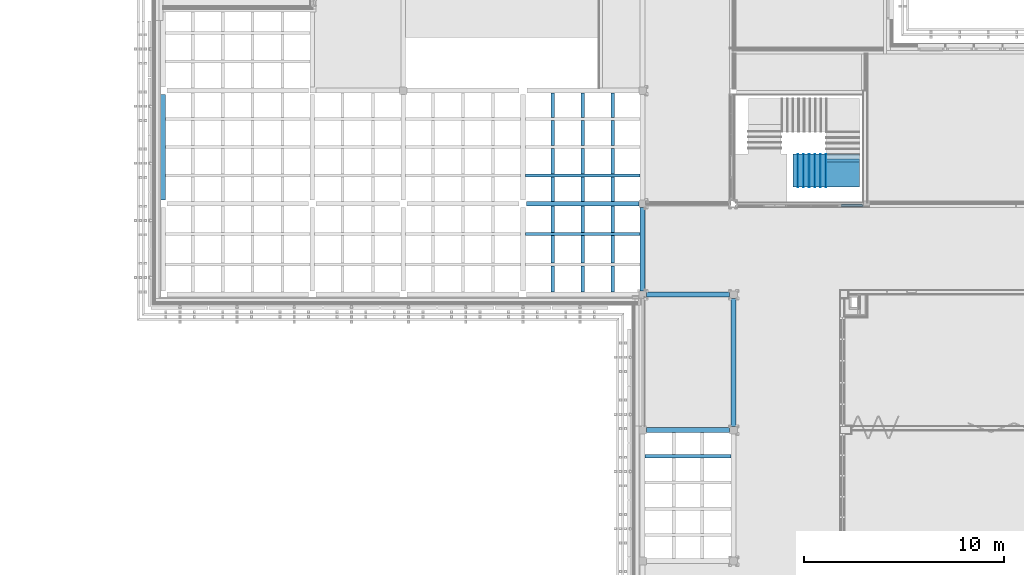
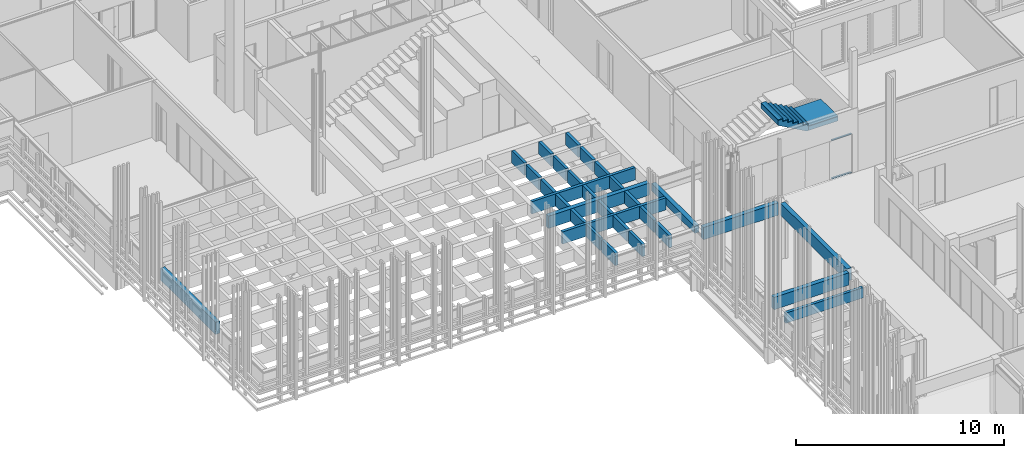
# One storey, part 35 of 139: 17 members, 12 beams, 2 elements without a shape of their own.
"""IFC2X3 building model written with IfcOpenShell, lengths in millimetres."""

from ifc_helpers import new_model, entity, si_unit, converted_unit, derived_unit, money_unit, direction, frame, origin_with_axes, place, context, subcontext, project, spatial, faceted_brep, material, type_object, element, aggregate, save


model = new_model("IFC2X3")

# Units and contexts
model_context = context("Model", 3, precision=0.01, world=origin_with_axes(), true_north=direction((0.0, 1.0)))
body_context = subcontext(model_context, "Body", "Model", "MODEL_VIEW")
ifc_project = project(units=[si_unit("LENGTHUNIT", "METRE", prefix="MILLI"), si_unit("AREAUNIT", "SQUARE_METRE"), si_unit("VOLUMEUNIT", "CUBIC_METRE"), converted_unit("PLANEANGLEUNIT", "DEGREE", entity("IfcPlaneAngleMeasure", 0.0174532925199), si_unit("PLANEANGLEUNIT", "RADIAN"), dimensions=[0, 0, 0, 0, 0, 0, 0]), money_unit("EUR"), converted_unit("TIMEUNIT", "Year", entity("IfcTimeMeasure", 31556926.0), si_unit("TIMEUNIT", "SECOND"), dimensions=[0, 0, 1, 0, 0, 0, 0]), si_unit("MASSUNIT", "GRAM", prefix="KILO"), si_unit("THERMODYNAMICTEMPERATUREUNIT", "DEGREE_CELSIUS"), si_unit("LUMINOUSINTENSITYUNIT", "LUMEN"), si_unit("ENERGYUNIT", "JOULE", prefix="MEGA"), derived_unit("THERMALCONDUCTANCEUNIT", [(si_unit("POWERUNIT", "WATT"), 1), (si_unit("LENGTHUNIT", "METRE"), -1), (si_unit("THERMODYNAMICTEMPERATUREUNIT", "KELVIN"), -1)]), derived_unit("SPECIFICHEATCAPACITYUNIT", [(si_unit("ENERGYUNIT", "JOULE"), 1), (si_unit("MASSUNIT", "GRAM", prefix="KILO"), -1), (si_unit("THERMODYNAMICTEMPERATUREUNIT", "KELVIN"), -1)]), derived_unit("MASSDENSITYUNIT", [(si_unit("MASSUNIT", "GRAM", prefix="KILO"), 1), (si_unit("VOLUMEUNIT", "CUBIC_METRE"), -1)])], contexts=[model_context])

# Site, building, storey
site_placement = place(None, origin_with_axes())
site = spatial("IfcSite", under=ifc_project, at=site_placement, Name="Kolde pst 67a", CompositionType="ELEMENT")
building_placement = place(site_placement, origin_with_axes())
building = spatial("IfcBuilding", under=site, at=building_placement, Name="Riigigümnaasium", CompositionType="ELEMENT")
storey_placement = place(building_placement, frame((0.0, 0.0, 4600.0), z_axis=(0.0, 0.0, 1.0), x_axis=(1.0, 0.0, 0.0)))
storey = spatial("IfcBuildingStorey", under=building, at=storey_placement, Name="2. korrus", CompositionType="ELEMENT", Elevation=4600.0)

# Stair, members
stair_placement = place(storey_placement, frame((55074.9941194, 31162.4614213, 0.0), z_axis=(0.0, 0.0, 1.0), x_axis=(1.0, 0.0, 0.0)))
stair = element("IfcStair", 1, at=stair_placement, inside=storey, Name="TREPP", ShapeType="NOTDEFINED")
ifc_material_1 = material(Name="_KANDETARIND - raudbetoon C25/30 vastavalt EK osale")
member_type_1 = type_object("IfcMemberType", Name="IfcMember", PredefinedType="USERDEFINED")
member_1_placement = place(stair_placement, origin_with_axes())
member_1 = element("IfcMember", 2, at=member_1_placement, type_object=member_type_1, material=ifc_material_1, Name="TM KONSTRUKTSIOON - 014", ObjectType="Stair Structure", context=body_context, shape_type="Brep", body=[
    faceted_brep([(2349.9899171, -135.00000579, 2530.5), (2349.9899171, -135.00000579, 2630.5), (3999.95412159, -135.00000579, 2630.5), (3999.95412159, -135.00000579, 2530.5), (2349.9899171, -295.000014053, 2630.5), (2349.9899171, -1555.0, 2530.5), (2349.9899171, -1555.0, 2780.5), (2349.9899171, -295.000014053, 2780.5), (3999.95412159, -295.000014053, 2630.5), (3999.95412159, -295.000014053, 2780.5), (3999.95411863, -1555.0, 2780.5), (3999.95411863, -1555.0, 2530.5)], [[[0, 1, 2, 3]], [[4, 1, 0, 5, 6, 7]], [[1, 4, 8, 2]], [[2, 8, 9, 10, 11, 3]], [[5, 0, 3, 11]], [[6, 5, 11, 10]], [[7, 6, 10, 9]], [[4, 7, 9, 8]]]),
])
member_2_placement = place(stair_placement, origin_with_axes())
member_2 = element("IfcMember", 3, at=member_2_placement, type_object=member_type_1, material=ifc_material_1, Name="TT KONSTRUKTSIOON - 018", ObjectType="Stair Structure", context=body_context, shape_type="Brep", body=[
    faceted_brep([(2349.98991721, -1555.0, 2530.5), (2349.98991721, 95.0, 2530.5), (2349.98991721, 95.0, 2780.5), (2349.98991721, -1555.0, 2780.5), (2263.21648752, 95.0, 2530.5), (2263.21648752, -1555.0, 2530.5), (856.656583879, 95.0, 3315.41066052), (763.323250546, 95.0, 3367.49399385), (669.989917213, 95.0, 3419.57732718), (669.989917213, 95.0, 3718.0), (917.989917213, 95.0, 3718.0), (917.989917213, 95.0, 3561.75), (1197.98991721, 95.0, 3561.75), (1197.98991721, 95.0, 3405.5), (1477.98991721, 95.0, 3405.5), (1477.98991721, 95.0, 3249.25), (1757.98991721, 95.0, 3249.25), (1757.98991721, 95.0, 3093.0), (2037.98991721, 95.0, 3093.0), (2037.98991721, 95.0, 2936.75), (2317.98991721, 95.0, 2936.75), (2317.98991721, 95.0, 2780.5), (2256.65658388, 95.0, 2534.16066052), (2163.32325055, 95.0, 2586.24399385), (2069.98991721, 95.0, 2638.32732718), (1976.65658388, 95.0, 2690.41066052), (1883.32325055, 95.0, 2742.49399385), (1789.98991721, 95.0, 2794.57732718), (1696.65658388, 95.0, 2846.66066052), (1603.32325055, 95.0, 2898.74399385), (1509.98991721, 95.0, 2950.82732718), (1416.65658388, 95.0, 3002.91066052), (1323.32325055, 95.0, 3054.99399385), (1229.98991721, 95.0, 3107.07732718), (1136.65658388, 95.0, 3159.16066052), (1043.32325055, 95.0, 3211.24399385), (949.989917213, 95.0, 3263.32732718), (2317.98991721, -1555.0, 2780.5), (2163.32325055, -1555.0, 2586.24399385), (2256.65658388, -1555.0, 2534.16066052), (2317.98991721, -1555.0, 2936.75), (2037.98991721, -1555.0, 2936.75), (2037.98991721, -1555.0, 3093.0), (1757.98991721, -1555.0, 3093.0), (1757.98991721, -1555.0, 3249.25), (1477.98991721, -1555.0, 3249.25), (1477.98991721, -1555.0, 3405.5), (1197.98991721, -1555.0, 3405.5), (1197.98991721, -1555.0, 3561.75), (917.989917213, -1555.0, 3561.75), (917.989917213, -1555.0, 3718.0), (669.989917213, -1555.0, 3718.0), (669.989917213, -1555.0, 3419.57732718), (763.323250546, -1555.0, 3367.49399385), (856.656583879, -1555.0, 3315.41066052), (949.989917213, -1555.0, 3263.32732718), (1043.32325055, -1555.0, 3211.24399385), (1136.65658388, -1555.0, 3159.16066052), (1229.98991721, -1555.0, 3107.07732718), (1323.32325055, -1555.0, 3054.99399385), (1416.65658388, -1555.0, 3002.91066052), (1509.98991721, -1555.0, 2950.82732718), (1603.32325055, -1555.0, 2898.74399385), (1696.65658388, -1555.0, 2846.66066052), (1789.98991721, -1555.0, 2794.57732718), (1883.32325055, -1555.0, 2742.49399385), (1976.65658388, -1555.0, 2690.41066052), (2069.98991721, -1555.0, 2638.32732718)], [[[0, 1, 2, 3]], [[4, 1, 0, 5]], [[6, 7, 8, 9, 10, 11, 12, 13, 14, 15, 16, 17, 18, 19, 20, 21, 2, 1, 4, 22, 23, 24, 25, 26, 27, 28, 29, 30, 31, 32, 33, 34, 35, 36]], [[21, 37, 3, 2]], [[38, 39, 5, 0, 3, 37, 40, 41, 42, 43, 44, 45, 46, 47, 48, 49, 50, 51, 52, 53, 54, 55, 56, 57, 58, 59, 60, 61, 62, 63, 64, 65, 66, 67]], [[4, 5, 39, 22]], [[53, 7, 6, 54]], [[52, 8, 7, 53]], [[9, 8, 52, 51]], [[9, 51, 50, 10]], [[50, 49, 11, 10]], [[49, 48, 12, 11]], [[48, 47, 13, 12]], [[47, 46, 14, 13]], [[46, 45, 15, 14]], [[45, 44, 16, 15]], [[44, 43, 17, 16]], [[43, 42, 18, 17]], [[42, 41, 19, 18]], [[41, 40, 20, 19]], [[40, 37, 21, 20]], [[38, 23, 22, 39]], [[67, 24, 23, 38]], [[66, 25, 24, 67]], [[65, 26, 25, 66]], [[64, 27, 26, 65]], [[63, 28, 27, 64]], [[62, 29, 28, 63]], [[61, 30, 29, 62]], [[60, 31, 30, 61]], [[59, 32, 31, 60]], [[58, 33, 32, 59]], [[57, 34, 33, 58]], [[56, 35, 34, 57]], [[55, 36, 35, 56]], [[54, 6, 36, 55]]]),
])
ifc_material_2 = material(Name="_VIIMISTLUSKIHT - viimistlus vastavalt SA osale")
member_type_2 = type_object("IfcMemberType", Name="IfcMember", PredefinedType="USERDEFINED")
member_3_placement = place(stair_placement, frame((2349.98991721, -730.0, 2936.75), z_axis=(0.0, 0.0, 1.0), x_axis=(0.0, 1.0, 0.0)))
member_3 = element("IfcMember", 4, at=member_3_placement, type_object=member_type_2, material=ifc_material_2, Name="TV TÕUS - 125", ObjectType="Stair Riser", context=body_context, shape_type="Brep", body=[
    faceted_brep([(825.0, 0.0, 0.0), (825.0, 32.0, 0.0), (-825.0, 32.0, 0.0), (-825.0, 0.0, 0.0), (825.0, 0.0, -124.25), (825.0, 32.0, -124.25), (-825.0, 32.0, -124.25), (-825.0, 0.0, -124.25)], [[[0, 1, 2, 3]], [[0, 4, 5, 1]], [[1, 5, 6, 2]], [[3, 2, 6, 7]], [[4, 0, 3, 7]], [[5, 4, 7, 6]]]),
])
member_4_placement = place(stair_placement, frame((2069.98991721, -730.0, 3093.0), z_axis=(0.0, 0.0, 1.0), x_axis=(0.0, 1.0, 0.0)))
member_4 = element("IfcMember", 5, at=member_4_placement, type_object=member_type_2, material=ifc_material_2, Name="TV TÕUS - 126", ObjectType="Stair Riser", context=body_context, shape_type="Brep", body=[
    faceted_brep([(825.0, 0.0, 0.0), (825.0, 32.0, 0.0), (-825.0, 32.0, 0.0), (-825.0, 0.0, 0.0), (825.0, 0.0, -124.25), (825.0, 32.0, -124.25), (-825.0, 32.0, -124.25), (-825.0, 0.0, -124.25)], [[[0, 1, 2, 3]], [[0, 4, 5, 1]], [[1, 5, 6, 2]], [[3, 2, 6, 7]], [[4, 0, 3, 7]], [[5, 4, 7, 6]]]),
])
member_5_placement = place(stair_placement, frame((1789.98991721, -730.0, 3249.25), z_axis=(0.0, 0.0, 1.0), x_axis=(0.0, 1.0, 0.0)))
member_5 = element("IfcMember", 6, at=member_5_placement, type_object=member_type_2, material=ifc_material_2, Name="TV TÕUS - 132", ObjectType="Stair Riser", context=body_context, shape_type="Brep", body=[
    faceted_brep([(825.0, 0.0, 0.0), (825.0, 32.0, 0.0), (-825.0, 32.0, 0.0), (-825.0, 0.0, 0.0), (825.0, 0.0, -124.25), (825.0, 32.0, -124.25), (-825.0, 32.0, -124.25), (-825.0, 0.0, -124.25)], [[[0, 1, 2, 3]], [[0, 4, 5, 1]], [[1, 5, 6, 2]], [[3, 2, 6, 7]], [[4, 0, 3, 7]], [[5, 4, 7, 6]]]),
])
member_6_placement = place(stair_placement, frame((1509.98991721, -730.0, 3405.5), z_axis=(0.0, 0.0, 1.0), x_axis=(0.0, 1.0, 0.0)))
member_6 = element("IfcMember", 7, at=member_6_placement, type_object=member_type_2, material=ifc_material_2, Name="TV TÕUS - 133", ObjectType="Stair Riser", context=body_context, shape_type="Brep", body=[
    faceted_brep([(825.0, 0.0, 0.0), (825.0, 32.0, 0.0), (-825.0, 32.0, 0.0), (-825.0, 0.0, 0.0), (825.0, 0.0, -124.25), (825.0, 32.0, -124.25), (-825.0, 32.0, -124.25), (-825.0, 0.0, -124.25)], [[[0, 1, 2, 3]], [[0, 4, 5, 1]], [[1, 5, 6, 2]], [[3, 2, 6, 7]], [[4, 0, 3, 7]], [[5, 4, 7, 6]]]),
])
member_7_placement = place(stair_placement, frame((1229.98991721, -730.0, 3561.75), z_axis=(0.0, 0.0, 1.0), x_axis=(0.0, 1.0, 0.0)))
member_7 = element("IfcMember", 8, at=member_7_placement, type_object=member_type_2, material=ifc_material_2, Name="TV TÕUS - 134", ObjectType="Stair Riser", context=body_context, shape_type="Brep", body=[
    faceted_brep([(825.0, 0.0, 0.0), (825.0, 32.0, 0.0), (-825.0, 32.0, 0.0), (-825.0, 0.0, 0.0), (825.0, 0.0, -124.25), (825.0, 32.0, -124.25), (-825.0, 32.0, -124.25), (-825.0, 0.0, -124.25)], [[[0, 1, 2, 3]], [[0, 4, 5, 1]], [[1, 5, 6, 2]], [[3, 2, 6, 7]], [[4, 0, 3, 7]], [[5, 4, 7, 6]]]),
])
member_8_placement = place(stair_placement, frame((949.989917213, -730.0, 3718.0), z_axis=(0.0, 0.0, 1.0), x_axis=(0.0, 1.0, 0.0)))
member_8 = element("IfcMember", 9, at=member_8_placement, type_object=member_type_2, material=ifc_material_2, Name="TV TÕUS - 135", ObjectType="Stair Riser", context=body_context, shape_type="Brep", body=[
    faceted_brep([(825.0, 0.0, 0.0), (825.0, 32.0, 0.0), (-825.0, 32.0, 0.0), (-825.0, 0.0, 0.0), (825.0, 0.0, -124.25), (825.0, 32.0, -124.25), (-825.0, 32.0, -124.25), (-825.0, 0.0, -124.25)], [[[0, 1, 2, 3]], [[0, 4, 5, 1]], [[1, 5, 6, 2]], [[3, 2, 6, 7]], [[4, 0, 3, 7]], [[5, 4, 7, 6]]]),
])
member_type_3 = type_object("IfcMemberType", Name="IfcMember", PredefinedType="USERDEFINED")
member_9_placement = place(stair_placement, frame((3174.98991721, 95.0, 2812.5), z_axis=(0.0, 0.0, 1.0), x_axis=(-1.0, 0.0, 0.0)))
member_9 = element("IfcMember", 10, at=member_9_placement, type_object=member_type_3, material=ifc_material_2, Name="SL TREAD - 014", ObjectType="Stair Tread", context=body_context, shape_type="Brep", body=[
    faceted_brep([(857.0, 1650.0, -32.0), (-824.964204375, 1650.0, -32.0), (-824.964204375, 1650.0, 0.0), (857.0, 1650.0, 0.0), (857.0, 2.88740520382e-06, -32.0), (825.000002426, 2.88740520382e-06, -32.0), (-824.964204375, 2.88740520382e-06, -32.0), (-824.964204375, 2.88740520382e-06, 0.0), (825.000002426, 2.88740520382e-06, 0.0), (857.0, 2.88740520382e-06, 0.0)], [[[0, 1, 2, 3]], [[0, 4, 5, 6, 1]], [[1, 6, 7, 2]], [[3, 2, 7, 8, 9]], [[4, 0, 3, 9]], [[5, 4, 9, 8]], [[6, 5, 8, 7]]]),
])
member_10_placement = place(stair_placement, frame((2349.98991721, -730.0, 2968.75), z_axis=(0.0, 0.0, 1.0), x_axis=(0.0, 1.0, 0.0)))
member_10 = element("IfcMember", 11, at=member_10_placement, type_object=member_type_3, material=ifc_material_2, Name="TV ASTE - 126", ObjectType="Stair Tread", context=body_context, shape_type="Brep", body=[
    faceted_brep([(-825.0, 312.0, -32.0), (-825.0, 0.0, -32.0), (-825.0, 0.0, 0.0), (-825.0, 312.0, 0.0), (825.0, 312.0, -32.0), (825.0, 0.0, -32.0), (825.0, 0.0, 0.0), (825.0, 312.0, 0.0)], [[[0, 1, 2, 3]], [[0, 4, 5, 1]], [[1, 5, 6, 2]], [[3, 2, 6, 7]], [[4, 0, 3, 7]], [[5, 4, 7, 6]]]),
])
member_11_placement = place(stair_placement, frame((2069.98991721, -730.0, 3125.0), z_axis=(0.0, 0.0, 1.0), x_axis=(0.0, 1.0, 0.0)))
member_11 = element("IfcMember", 12, at=member_11_placement, type_object=member_type_3, material=ifc_material_2, Name="TV ASTE - 127", ObjectType="Stair Tread", context=body_context, shape_type="Brep", body=[
    faceted_brep([(-825.0, 0.0, -32.0), (825.0, 0.0, -32.0), (825.0, 0.0, 0.0), (-825.0, 0.0, 0.0), (-825.0, 312.0, -32.0), (825.0, 312.0, -32.0), (825.0, 312.0, 0.0), (-825.0, 312.0, 0.0)], [[[0, 1, 2, 3]], [[0, 4, 5, 1]], [[1, 5, 6, 2]], [[3, 2, 6, 7]], [[4, 0, 3, 7]], [[5, 4, 7, 6]]]),
])
member_12_placement = place(stair_placement, frame((1789.98991721, -730.0, 3281.25), z_axis=(0.0, 0.0, 1.0), x_axis=(0.0, 1.0, 0.0)))
member_12 = element("IfcMember", 13, at=member_12_placement, type_object=member_type_3, material=ifc_material_2, Name="TV ASTE - 133", ObjectType="Stair Tread", context=body_context, shape_type="Brep", body=[
    faceted_brep([(-825.0, 0.0, -32.0), (825.0, 0.0, -32.0), (825.0, 0.0, 0.0), (-825.0, 0.0, 0.0), (-825.0, 312.0, -32.0), (825.0, 312.0, -32.0), (825.0, 312.0, 0.0), (-825.0, 312.0, 0.0)], [[[0, 1, 2, 3]], [[0, 4, 5, 1]], [[1, 5, 6, 2]], [[3, 2, 6, 7]], [[4, 0, 3, 7]], [[5, 4, 7, 6]]]),
])
member_13_placement = place(stair_placement, frame((1509.98991721, -730.0, 3437.5), z_axis=(0.0, 0.0, 1.0), x_axis=(0.0, 1.0, 0.0)))
member_13 = element("IfcMember", 14, at=member_13_placement, type_object=member_type_3, material=ifc_material_2, Name="TV ASTE - 134", ObjectType="Stair Tread", context=body_context, shape_type="Brep", body=[
    faceted_brep([(-825.0, 0.0, -32.0), (825.0, 0.0, -32.0), (825.0, 0.0, 0.0), (-825.0, 0.0, 0.0), (-825.0, 312.0, -32.0), (825.0, 312.0, -32.0), (825.0, 312.0, 0.0), (-825.0, 312.0, 0.0)], [[[0, 1, 2, 3]], [[0, 4, 5, 1]], [[1, 5, 6, 2]], [[3, 2, 6, 7]], [[4, 0, 3, 7]], [[5, 4, 7, 6]]]),
])
member_14_placement = place(stair_placement, frame((1229.98991721, -730.0, 3593.75), z_axis=(0.0, 0.0, 1.0), x_axis=(0.0, 1.0, 0.0)))
member_14 = element("IfcMember", 15, at=member_14_placement, type_object=member_type_3, material=ifc_material_2, Name="TV ASTE - 135", ObjectType="Stair Tread", context=body_context, shape_type="Brep", body=[
    faceted_brep([(-825.0, 0.0, -32.0), (825.0, 0.0, -32.0), (825.0, 0.0, 0.0), (-825.0, 0.0, 0.0), (-825.0, 312.0, -32.0), (825.0, 312.0, -32.0), (825.0, 312.0, 0.0), (-825.0, 312.0, 0.0)], [[[0, 1, 2, 3]], [[0, 4, 5, 1]], [[1, 5, 6, 2]], [[3, 2, 6, 7]], [[4, 0, 3, 7]], [[5, 4, 7, 6]]]),
])
member_15_placement = place(stair_placement, frame((949.989917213, -730.0, 3750.0), z_axis=(0.0, 0.0, 1.0), x_axis=(0.0, 1.0, 0.0)))
member_15 = element("IfcMember", 16, at=member_15_placement, type_object=member_type_3, material=ifc_material_2, Name="TV ASTE - 136", ObjectType="Stair Tread", context=body_context, shape_type="Brep", body=[
    faceted_brep([(-825.0, 0.0, -32.0), (825.0, 0.0, -32.0), (825.0, 0.0, 0.0), (-825.0, 0.0, 0.0), (-825.0, 280.0, -32.0), (825.0, 280.0, -32.0), (825.0, 280.0, 0.0), (-825.0, 280.0, 0.0)], [[[0, 1, 2, 3]], [[0, 4, 5, 1]], [[1, 5, 6, 2]], [[3, 2, 6, 7]], [[4, 0, 3, 7]], [[5, 4, 7, 6]]]),
])
aggregate(stair, [member_1, member_2, member_3, member_4, member_5, member_6, member_7, member_8, member_9, member_10, member_11, member_12, member_13, member_14, member_15])

# Curtain wall, members
curtain_wall_type = type_object("IfcCurtainWallType", Name="Curtain Wall Type", PredefinedType="NOTDEFINED")
curtain_wall_placement = place(storey_placement, frame((56010.5010848, 28629.9996643, -9.132059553e-06), z_axis=(0.0, 0.0, 1.0), x_axis=(1.0, 0.0, 0.0)))
curtain_wall = element("IfcCurtainWall", 17, at=curtain_wall_placement, inside=storey, type_object=curtain_wall_type, Name="KLAASSEIN")
ifc_material_3 = material(Name="_GENEERILINE MATERJAL")
member_type_4 = type_object("IfcMemberType", Name="Boundary Frame 50 x 100", PredefinedType="MEMBER")
member_16_placement = place(curtain_wall_placement, frame((3269.55568473, 0.0, 2300.00000913), z_axis=(-1.0, 0.0, 0.0), x_axis=(0.0, 0.0, 1.0)))
member_16 = element("IfcMember", 18, at=member_16_placement, type_object=member_type_4, material=ifc_material_3, Name="RF RAAM SERV-536", ObjectType="MEMBER", context=body_context, shape_type="Brep", body=[
    faceted_brep([(-50.0, 10.0, 50.0), (-50.0, 10.0, 1110.0), (-50.0, 100.0, 1110.0), (-50.0, 100.0, 50.0), (-25.0, 10.0, 1110.0), (-25.0, 10.0, 25.0), (-25.0, 0.0, 1110.0), (0.0, 0.0, 1110.0), (0.0, 100.0, 1110.0), (0.0, 100.0, 0.0), (0.0, 0.0, 0.0), (-25.0, 0.0, 25.0)], [[[0, 1, 2, 3]], [[4, 1, 0, 5]], [[4, 6, 7, 8, 2, 1]], [[2, 8, 9, 3]], [[5, 0, 3, 9, 10, 11]], [[11, 6, 4, 5]], [[6, 11, 10, 7]], [[8, 7, 10, 9]]]),
])
member_17_placement = place(curtain_wall_placement, frame((3269.55568473, 0.0, 0.0), z_axis=(-1.0, 0.0, 0.0), x_axis=(0.0, 0.0, 1.0)))
member_17 = element("IfcMember", 19, at=member_17_placement, type_object=member_type_4, material=ifc_material_3, Name="RF RAAM SERV-524", ObjectType="MEMBER", context=body_context, shape_type="Brep", body=[
    faceted_brep([(50.0, 10.0, 50.0), (50.0, 100.0, 50.0), (50.0, 100.0, 1110.0), (50.0, 10.0, 1110.0), (25.0, 10.0, 25.0), (25.0, 0.0, 25.0), (0.0, 0.0, 0.0), (0.0, 100.0, 0.0), (0.0, 100.0, 1110.0), (25.0, 10.0, 1110.0), (0.0, 0.0, 1110.0), (25.0, 0.0, 1110.0)], [[[0, 1, 2, 3]], [[4, 5, 6, 7, 1, 0]], [[2, 1, 7, 8]], [[9, 3, 2, 8, 10, 11]], [[9, 4, 0, 3]], [[5, 4, 9, 11]], [[11, 10, 6, 5]], [[8, 7, 6, 10]]]),
])
aggregate(curtain_wall, [member_16, member_17])

# Beams
ifc_material_4 = material(Name="_KANDETARIND - liimpuit vastavalt EK osale")
beam_type_1 = type_object("IfcBeamType", Name="_KANDETARIND - liimpuit vastavalt EK osale 240 x 720", PredefinedType="BEAM")
beam_1_placement = place(storey_placement, frame((24230.0027342, 34249.9999729, 2960.0), z_axis=(0.0, 0.0, 1.0), x_axis=(-1.0, 0.0, 0.0)))
element("IfcBeam", 20, at=beam_1_placement, inside=storey, type_object=beam_type_1, material=ifc_material_4, Name="Tala", ObjectType="BEAM", context=body_context, shape_type="Brep", body=[
    faceted_brep([(120.0, 0.0, 360.0), (120.0, 5280.00027315, 360.0), (-120.0, 5280.00027315, 360.0), (-120.0, 0.0, 360.0), (120.0, 0.0, -360.0), (120.0, 5280.00027315, -360.0), (-120.0, 5280.00027315, -360.0), (-120.0, 0.0, -360.0)], [[[0, 1, 2, 3]], [[4, 5, 1, 0]], [[2, 1, 5, 6]], [[3, 2, 6, 7]], [[4, 0, 3, 7]], [[7, 6, 5, 4]]]),
])
beam_2_placement = place(storey_placement, frame((42429.99923, 28779.9996997, 2959.99999957), z_axis=(0.0, 0.0, 1.0), x_axis=(0.0, -1.0, 0.0)))
element("IfcBeam", 21, at=beam_2_placement, inside=storey, type_object=beam_type_1, material=ifc_material_4, Name="Tala", ObjectType="BEAM", context=body_context, shape_type="Brep", body=[
    faceted_brep([(120.0, 0.0, 360.0), (120.0, 5609.98623068, 360.0), (-120.0, 5609.98623068, 360.0), (-120.0, 0.0, 360.0), (120.0, 0.0, -360.0), (120.0, 5609.98623068, -360.0), (-120.0, 5609.98623068, -360.0), (-120.0, 0.0, -360.0)], [[[0, 1, 2, 3]], [[4, 5, 1, 0]], [[2, 1, 5, 6]], [[3, 2, 6, 7]], [[4, 0, 3, 7]], [[7, 6, 5, 4]]]),
])
beam_3_placement = place(storey_placement, frame((52779.9941032, 17639.9999742, 2960.0), z_axis=(0.0, 0.0, 1.0), x_axis=(1.0, 0.0, 0.0)))
element("IfcBeam", 22, at=beam_3_placement, inside=storey, type_object=beam_type_1, material=ifc_material_4, Name="Tala", ObjectType="BEAM", context=body_context, shape_type="Brep", body=[
    faceted_brep([(120.0, 0.0, 360.0), (120.0, 6399.99999849, 360.0), (-120.0, 6399.99999849, 360.0), (-120.0, 0.0, 360.0), (120.0, 0.0, -360.0), (120.0, 6399.99999849, -360.0), (-120.0, 6399.99999849, -360.0), (-120.0, 0.0, -360.0)], [[[0, 1, 2, 3]], [[4, 5, 1, 0]], [[2, 1, 5, 6]], [[3, 2, 6, 7]], [[4, 0, 3, 7]], [[7, 6, 5, 4]]]),
])
beam_4_placement = place(storey_placement, frame((52589.9941222, 24229.9965348, 2960.0), z_axis=(0.0, 0.0, 1.0), x_axis=(0.0, 1.0, 0.0)))
element("IfcBeam", 23, at=beam_4_placement, inside=storey, type_object=beam_type_1, material=ifc_material_4, Name="Tala", ObjectType="BEAM", context=body_context, shape_type="Brep", body=[
    faceted_brep([(120.0, 0.0, 360.0), (120.0, 4170.00866153, 360.0), (-120.0, 4170.00866153, 360.0), (-120.0, 0.0, 360.0), (120.0, 0.0, -360.0), (120.0, 4170.00866153, -360.0), (-120.0, 4170.00866153, -360.0), (-120.0, 0.0, -360.0)], [[[0, 1, 2, 3]], [[4, 5, 1, 0]], [[2, 1, 5, 6]], [[3, 2, 6, 7]], [[4, 0, 3, 7]], [[7, 6, 5, 4]]]),
])
beam_5_placement = place(storey_placement, frame((52589.9941032, 17449.9999742, 2960.0), z_axis=(0.0, 0.0, 1.0), x_axis=(0.0, 1.0, 0.0)))
element("IfcBeam", 24, at=beam_5_placement, inside=storey, type_object=beam_type_1, material=ifc_material_4, Name="Tala", ObjectType="BEAM", context=body_context, shape_type="Brep", body=[
    faceted_brep([(120.0, 0.0, 360.0), (120.0, 4170.00863425, 360.0), (-120.0, 4170.00863425, 360.0), (-120.0, 0.0, 360.0), (120.0, 0.0, -360.0), (120.0, 4170.00863425, -360.0), (-120.0, 4170.00863425, -360.0), (-120.0, 0.0, -360.0)], [[[0, 1, 2, 3]], [[4, 5, 1, 0]], [[2, 1, 5, 6]], [[3, 2, 6, 7]], [[4, 0, 3, 7]], [[7, 6, 5, 4]]]),
])
beam_type_2 = type_object("IfcBeamType", Name="_KANDETARIND - liimpuit vastavalt EK osale 240 x 430", PredefinedType="BEAM")
beam_6_placement = place(storey_placement, frame((48229.9854607, 28589.9996998, 3104.99999994), z_axis=(0.0, 0.0, 1.0), x_axis=(-1.0, 0.0, 0.0)))
element("IfcBeam", 25, at=beam_6_placement, inside=storey, type_object=beam_type_2, material=ifc_material_4, Name="Tala", ObjectType="BEAM", context=body_context, shape_type="Brep", body=[
    faceted_brep([(120.0, 0.0, 215.0), (120.0, 4170.003165, 215.0), (-120.0, 4170.003165, 215.0), (-120.0, 0.0, 215.0), (120.0, 0.0, -215.0), (120.0, 4170.003165, -215.0), (-120.0, 4170.003165, -215.0), (-120.0, 0.0, -215.0)], [[[0, 1, 2, 3]], [[4, 5, 1, 0]], [[2, 1, 5, 6]], [[3, 2, 6, 7]], [[4, 0, 3, 7]], [[7, 6, 5, 4]]]),
])
beam_type_3 = type_object("IfcBeamType", Name="_KANDETARIND - liimpuit vastavalt EK osale 160 x 600", PredefinedType="BEAM")
beam_7_placement = place(storey_placement, frame((52659.9941069, 16139.5355863, 2900.0), z_axis=(0.0, 0.0, 1.0), x_axis=(0.0, 1.0, 0.0)))
element("IfcBeam", 26, at=beam_7_placement, inside=storey, type_object=beam_type_3, material=ifc_material_4, Name="Tala", ObjectType="BEAM", context=body_context, shape_type="Brep", body=[
    faceted_brep([(80.0, 0.0, 300.0), (80.0, 4310.00869219, 300.0), (-80.0, 4310.00869219, 300.0), (-80.0, 0.0, 300.0), (80.0, 0.0, -300.0), (80.0, 4310.00869219, -300.0), (-80.0, 4310.00869219, -300.0), (-80.0, 0.0, -300.0)], [[[0, 1, 2, 3]], [[4, 5, 1, 0]], [[2, 1, 5, 6]], [[3, 2, 6, 7]], [[4, 0, 3, 7]], [[7, 6, 5, 4]]]),
])
beam_type_4 = type_object("IfcBeamType", Name="_KANDETARIND - liimpuit vastavalt EK osale 160 x 720", PredefinedType="BEAM")
beam_8_placement = place(storey_placement, frame((48108.9770325, 27264.573681, 2960.0), z_axis=(0.0, 0.0, 1.0), x_axis=(0.0, 1.0, 0.0)))
element("IfcBeam", 27, at=beam_8_placement, inside=storey, type_object=beam_type_4, material=ifc_material_4, Name="Tala", ObjectType="BEAM", context=body_context, shape_type="Brep", body=[
    faceted_brep([(80.0, 0.0, 360.0), (80.0, 5749.02487088, 360.0), (-80.0, 5749.02487088, 360.0), (-80.0, 0.0, 360.0), (80.0, 0.0, -360.0), (80.0, 5749.02487088, -360.0), (-80.0, 5749.02487088, -360.0), (-80.0, 0.0, -360.0)], [[[0, 1, 2, 3]], [[4, 5, 1, 0]], [[2, 1, 5, 6]], [[3, 2, 6, 7]], [[4, 0, 3, 7]], [[7, 6, 5, 4]]]),
])
beam_9_placement = place(storey_placement, frame((48110.0521616, 30194.9857523, 2960.0), z_axis=(0.0, 0.0, 1.0), x_axis=(0.0, 1.0, 0.0)))
element("IfcBeam", 28, at=beam_9_placement, inside=storey, type_object=beam_type_4, material=ifc_material_4, Name="Tala", ObjectType="BEAM", context=body_context, shape_type="Brep", body=[
    faceted_brep([(80.0, 0.0, 360.0), (80.0, 5750.00000003, 360.0), (-80.0, 5750.00000003, 360.0), (-80.0, 0.0, 360.0), (80.0, 0.0, -360.0), (80.0, 5750.00000003, -360.0), (-80.0, 5750.00000003, -360.0), (-80.0, 0.0, -360.0)], [[[0, 1, 2, 3]], [[4, 5, 1, 0]], [[2, 1, 5, 6]], [[3, 2, 6, 7]], [[4, 0, 3, 7]], [[7, 6, 5, 4]]]),
])
beam_10_placement = place(storey_placement, frame((43737.4521616, 34319.999949, 2960.0), z_axis=(0.0, 0.0, 1.0), x_axis=(-1.0, 0.0, 0.0)))
element("IfcBeam", 29, at=beam_10_placement, inside=storey, type_object=beam_type_4, material=ifc_material_4, Name="Tala", ObjectType="BEAM", context=body_context, shape_type="Brep", body=[
    faceted_brep([(-80.0, 1375.61376537, -360.0), (-80.0, 1375.61376537, 360.0), (-80.0, 2630.01419669, 360.0), (-80.0, 2630.01419669, -360.0), (80.0, 1375.61376537, 360.0), (80.0, 1375.61376537, -360.0), (80.0, 2630.01419669, 360.0), (80.0, 2630.01419669, -360.0)], [[[0, 1, 2, 3]], [[4, 1, 0, 5]], [[1, 4, 6, 2]], [[7, 3, 2, 6]], [[5, 0, 3, 7]], [[4, 5, 7, 6]]]),
    faceted_brep([(80.0, 1215.61376537, 360.0), (-80.0, 1215.61376537, 360.0), (-80.0, 0.0, 360.0), (80.0, 0.0, 360.0), (-80.0, 1215.61376537, -360.0), (80.0, 1215.61376537, -360.0), (-80.0, 0.0, -360.0), (80.0, 0.0, -360.0)], [[[0, 1, 2, 3]], [[4, 1, 0, 5]], [[1, 4, 6, 2]], [[2, 6, 7, 3]], [[5, 0, 3, 7]], [[4, 5, 7, 6]]]),
    faceted_brep([(-80.0, 8655.42626795, -360.0), (-80.0, 8655.42626795, 360.0), (-80.0, 9969.9999729, 360.0), (-80.0, 9969.9999729, -360.0), (80.0, 8655.42626795, 360.0), (80.0, 8655.42626795, -360.0), (80.0, 9969.9999729, 360.0), (80.0, 9969.9999729, -360.0)], [[[0, 1, 2, 3]], [[4, 1, 0, 5]], [[1, 4, 6, 2]], [[3, 2, 6, 7]], [[5, 0, 3, 7]], [[4, 5, 7, 6]]]),
    faceted_brep([(80.0, 8495.42626795, 360.0), (-80.0, 8495.42626795, 360.0), (-80.0, 7135.42626795, 360.0), (80.0, 7135.42626795, 360.0), (-80.0, 8495.42626795, -360.0), (80.0, 8495.42626795, -360.0), (-80.0, 7135.42626795, -360.0), (80.0, 7135.42626795, -360.0)], [[[0, 1, 2, 3]], [[4, 1, 0, 5]], [[1, 4, 6, 2]], [[7, 3, 2, 6]], [[5, 0, 3, 7]], [[4, 5, 7, 6]]]),
    faceted_brep([(80.0, 6975.42626795, 360.0), (-80.0, 6975.42626795, 360.0), (-80.0, 5660.00024925, 359.999999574), (80.0, 5660.00024925, 359.999999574), (-80.0, 6975.42626795, -360.0), (80.0, 6975.42626795, -360.0), (-80.0, 5660.00024925, -360.000000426), (80.0, 5660.00024925, -360.000000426)], [[[0, 1, 2, 3]], [[4, 1, 0, 5]], [[1, 4, 6, 2]], [[7, 3, 2, 6]], [[5, 0, 3, 7]], [[4, 5, 7, 6]]]),
    faceted_brep([(80.0, 5420.00024925, 359.999999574), (-80.0, 5420.00024925, 359.999999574), (-80.0, 4205.01419669, 360.0), (80.0, 4205.01419669, 360.0), (-80.0, 5420.00024925, -360.000000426), (80.0, 5420.00024925, -360.000000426), (-80.0, 4205.01419669, -360.0), (80.0, 4205.01419669, -360.0)], [[[0, 1, 2, 3]], [[4, 1, 0, 5]], [[1, 4, 6, 2]], [[7, 3, 2, 6]], [[5, 0, 3, 7]], [[4, 5, 7, 6]]]),
    faceted_brep([(80.0, 4045.01419669, 360.0), (-80.0, 4045.01419669, 360.0), (-80.0, 2790.01419669, 360.0), (80.0, 2790.01419669, 360.0), (-80.0, 4045.01419669, -360.0), (80.0, 4045.01419669, -360.0), (-80.0, 2790.01419669, -360.0), (80.0, 2790.01419669, -360.0)], [[[0, 1, 2, 3]], [[4, 1, 0, 5]], [[1, 4, 6, 2]], [[7, 3, 2, 6]], [[5, 0, 3, 7]], [[4, 5, 7, 6]]]),
])
beam_11_placement = place(storey_placement, frame((45234.9521616, 34319.999949, 2960.0), z_axis=(0.0, 0.0, 1.0), x_axis=(-1.0, 0.0, 0.0)))
element("IfcBeam", 30, at=beam_11_placement, inside=storey, type_object=beam_type_4, material=ifc_material_4, Name="Tala", ObjectType="BEAM", context=body_context, shape_type="Brep", body=[
    faceted_brep([(-80.0, 1375.61376537, -360.0), (-80.0, 1375.61376537, 360.0), (-80.0, 2630.01419669, 360.0), (-80.0, 2630.01419669, -360.0), (80.0, 1375.61376537, 360.0), (80.0, 1375.61376537, -360.0), (80.0, 2630.01419669, 360.0), (80.0, 2630.01419669, -360.0)], [[[0, 1, 2, 3]], [[4, 1, 0, 5]], [[1, 4, 6, 2]], [[7, 3, 2, 6]], [[5, 0, 3, 7]], [[4, 5, 7, 6]]]),
    faceted_brep([(80.0, 1215.61376537, 360.0), (-80.0, 1215.61376537, 360.0), (-80.0, 0.0, 360.0), (80.0, 0.0, 360.0), (-80.0, 1215.61376537, -360.0), (80.0, 1215.61376537, -360.0), (-80.0, 0.0, -360.0), (80.0, 0.0, -360.0)], [[[0, 1, 2, 3]], [[4, 1, 0, 5]], [[1, 4, 6, 2]], [[2, 6, 7, 3]], [[5, 0, 3, 7]], [[4, 5, 7, 6]]]),
    faceted_brep([(-80.0, 8655.42626795, -360.0), (-80.0, 8655.42626795, 360.0), (-80.0, 9969.9999729, 360.0), (-80.0, 9969.9999729, -360.0), (80.0, 8655.42626795, 360.0), (80.0, 8655.42626795, -360.0), (80.0, 9969.9999729, 360.0), (80.0, 9969.9999729, -360.0)], [[[0, 1, 2, 3]], [[4, 1, 0, 5]], [[1, 4, 6, 2]], [[3, 2, 6, 7]], [[5, 0, 3, 7]], [[4, 5, 7, 6]]]),
    faceted_brep([(80.0, 8495.42626795, 360.0), (-80.0, 8495.42626795, 360.0), (-80.0, 7135.42626795, 360.0), (80.0, 7135.42626795, 360.0), (-80.0, 8495.42626795, -360.0), (80.0, 8495.42626795, -360.0), (-80.0, 7135.42626795, -360.0), (80.0, 7135.42626795, -360.0)], [[[0, 1, 2, 3]], [[4, 1, 0, 5]], [[1, 4, 6, 2]], [[7, 3, 2, 6]], [[5, 0, 3, 7]], [[4, 5, 7, 6]]]),
    faceted_brep([(80.0, 6975.42626795, 360.0), (-80.0, 6975.42626795, 360.0), (-80.0, 5660.00024924, 359.999999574), (80.0, 5660.00024924, 359.999999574), (-80.0, 6975.42626795, -360.0), (80.0, 6975.42626795, -360.0), (-80.0, 5660.00024924, -360.000000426), (80.0, 5660.00024924, -360.000000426)], [[[0, 1, 2, 3]], [[4, 1, 0, 5]], [[1, 4, 6, 2]], [[7, 3, 2, 6]], [[5, 0, 3, 7]], [[4, 5, 7, 6]]]),
    faceted_brep([(80.0, 5420.00024924, 359.999999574), (-80.0, 5420.00024924, 359.999999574), (-80.0, 4205.01419669, 360.0), (80.0, 4205.01419669, 360.0), (-80.0, 5420.00024924, -360.000000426), (80.0, 5420.00024924, -360.000000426), (-80.0, 4205.01419669, -360.0), (80.0, 4205.01419669, -360.0)], [[[0, 1, 2, 3]], [[4, 1, 0, 5]], [[1, 4, 6, 2]], [[7, 3, 2, 6]], [[5, 0, 3, 7]], [[4, 5, 7, 6]]]),
    faceted_brep([(80.0, 4045.01419669, 360.0), (-80.0, 4045.01419669, 360.0), (-80.0, 2790.01419669, 360.0), (80.0, 2790.01419669, 360.0), (-80.0, 4045.01419669, -360.0), (80.0, 4045.01419669, -360.0), (-80.0, 2790.01419669, -360.0), (80.0, 2790.01419669, -360.0)], [[[0, 1, 2, 3]], [[4, 1, 0, 5]], [[1, 4, 6, 2]], [[7, 3, 2, 6]], [[5, 0, 3, 7]], [[4, 5, 7, 6]]]),
])
beam_12_placement = place(storey_placement, frame((46732.4521616, 34319.999949, 2960.0), z_axis=(0.0, 0.0, 1.0), x_axis=(-1.0, 0.0, 0.0)))
element("IfcBeam", 31, at=beam_12_placement, inside=storey, type_object=beam_type_4, material=ifc_material_4, Name="Tala", ObjectType="BEAM", context=body_context, shape_type="Brep", body=[
    faceted_brep([(-80.0, 1375.61376537, -360.0), (-80.0, 1375.61376537, 360.0), (-80.0, 2630.01419669, 360.0), (-80.0, 2630.01419669, -360.0), (80.0, 1375.61376537, 360.0), (80.0, 1375.61376537, -360.0), (80.0, 2630.01419669, 360.0), (80.0, 2630.01419669, -360.0)], [[[0, 1, 2, 3]], [[4, 1, 0, 5]], [[1, 4, 6, 2]], [[7, 3, 2, 6]], [[5, 0, 3, 7]], [[4, 5, 7, 6]]]),
    faceted_brep([(80.0, 1215.61376537, 360.0), (-80.0, 1215.61376537, 360.0), (-80.0, 0.0, 360.0), (80.0, 0.0, 360.0), (-80.0, 1215.61376537, -360.0), (80.0, 1215.61376537, -360.0), (-80.0, 0.0, -360.0), (80.0, 0.0, -360.0)], [[[0, 1, 2, 3]], [[4, 1, 0, 5]], [[1, 4, 6, 2]], [[2, 6, 7, 3]], [[5, 0, 3, 7]], [[4, 5, 7, 6]]]),
    faceted_brep([(-80.0, 8655.42626795, -360.0), (-80.0, 8655.42626795, 360.0), (-80.0, 9969.9999729, 360.0), (-80.0, 9969.9999729, -360.0), (80.0, 8655.42626795, 360.0), (80.0, 8655.42626795, -360.0), (80.0, 9969.9999729, 360.0), (80.0, 9969.9999729, -360.0)], [[[0, 1, 2, 3]], [[4, 1, 0, 5]], [[1, 4, 6, 2]], [[3, 2, 6, 7]], [[5, 0, 3, 7]], [[4, 5, 7, 6]]]),
    faceted_brep([(80.0, 8495.42626795, 360.0), (-80.0, 8495.42626795, 360.0), (-80.0, 7135.42626795, 360.0), (80.0, 7135.42626795, 360.0), (-80.0, 8495.42626795, -360.0), (80.0, 8495.42626795, -360.0), (-80.0, 7135.42626795, -360.0), (80.0, 7135.42626795, -360.0)], [[[0, 1, 2, 3]], [[4, 1, 0, 5]], [[1, 4, 6, 2]], [[7, 3, 2, 6]], [[5, 0, 3, 7]], [[4, 5, 7, 6]]]),
    faceted_brep([(80.0, 6975.42626795, 360.0), (-80.0, 6975.42626795, 360.0), (-80.0, 5660.00024924, 359.999999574), (80.0, 5660.00024924, 359.999999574), (-80.0, 6975.42626795, -360.0), (80.0, 6975.42626795, -360.0), (-80.0, 5660.00024924, -360.000000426), (80.0, 5660.00024924, -360.000000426)], [[[0, 1, 2, 3]], [[4, 1, 0, 5]], [[1, 4, 6, 2]], [[7, 3, 2, 6]], [[5, 0, 3, 7]], [[4, 5, 7, 6]]]),
    faceted_brep([(80.0, 5420.00024924, 359.999999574), (-80.0, 5420.00024924, 359.999999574), (-80.0, 4205.01419669, 360.0), (80.0, 4205.01419669, 360.0), (-80.0, 5420.00024924, -360.000000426), (80.0, 5420.00024924, -360.000000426), (-80.0, 4205.01419669, -360.0), (80.0, 4205.01419669, -360.0)], [[[0, 1, 2, 3]], [[4, 1, 0, 5]], [[1, 4, 6, 2]], [[7, 3, 2, 6]], [[5, 0, 3, 7]], [[4, 5, 7, 6]]]),
    faceted_brep([(80.0, 4045.01419669, 360.0), (-80.0, 4045.01419669, 360.0), (-80.0, 2790.01419669, 360.0), (80.0, 2790.01419669, 360.0), (-80.0, 4045.01419669, -360.0), (80.0, 4045.01419669, -360.0), (-80.0, 2790.01419669, -360.0), (80.0, 2790.01419669, -360.0)], [[[0, 1, 2, 3]], [[4, 1, 0, 5]], [[1, 4, 6, 2]], [[7, 3, 2, 6]], [[5, 0, 3, 7]], [[4, 5, 7, 6]]]),
])

save(model, "model.ifc")
